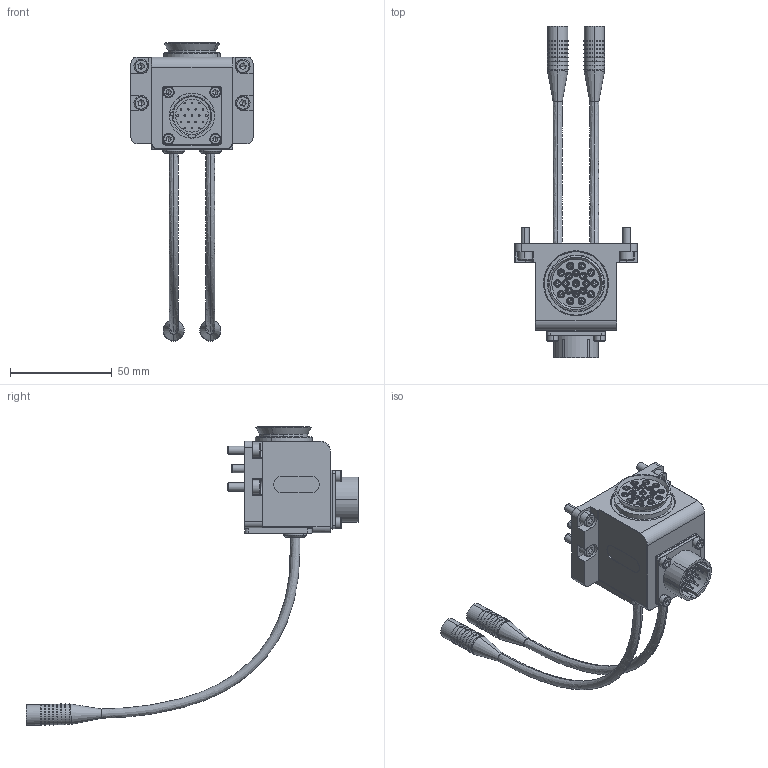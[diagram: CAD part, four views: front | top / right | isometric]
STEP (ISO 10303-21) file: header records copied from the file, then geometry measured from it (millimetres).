
FILE_DESCRIPTION (( 'STEP AP203' ), '1' );
FILE_NAME ('19针电模块(两根线缆).STEP', '2023-12-21T03:02:45', ( '' ), ( '' ), 'SwSTEP 2.0', 'SolidWorks 2018', '' );
FILE_SCHEMA (( 'CONFIG_CONTROL_DESIGN' ));
Length unit declared in the file: millimetre
Products named in the file (1): 19针电模块(两根线缆)
Bounding box: 60 x 163.07 x 146.66 mm (x, y, z)
Volume: 99064.8 mm3; surface area: 28386.4 mm2
Topology: 1 solids, 1 shells, 1323 faces, 2982 edges, 1752 vertices
Faces by surface type: plane 797, cylinder 316, cone 154, torus 52, bspline 4
Entity records: 36751 total; most frequent: CARTESIAN_POINT 7890, DIRECTION 6134, ORIENTED_EDGE 5888, EDGE_CURVE 2944, AXIS2_PLACEMENT_3D 2260, VERTEX_POINT 1752, VECTOR 1614, LINE 1614
